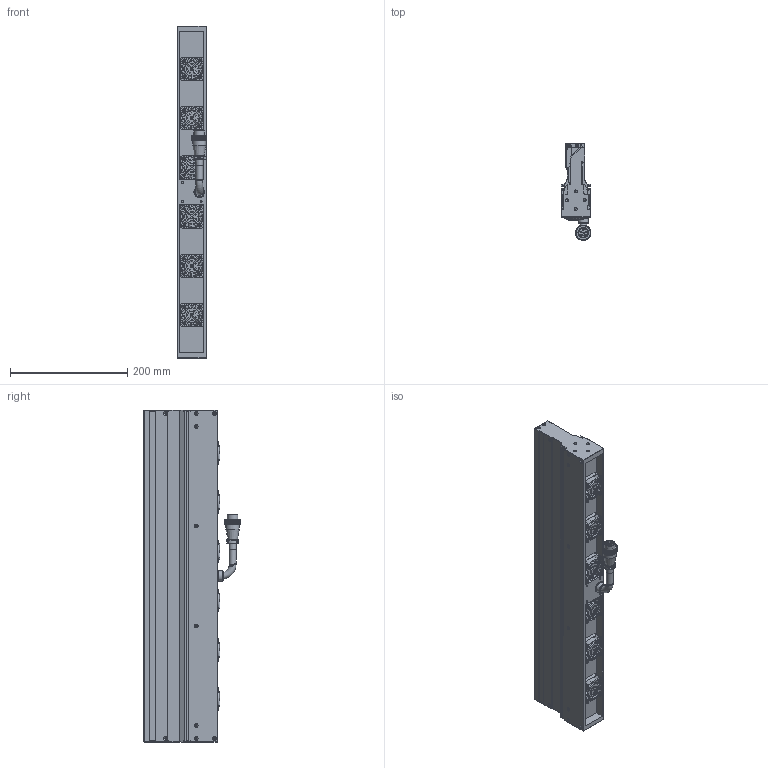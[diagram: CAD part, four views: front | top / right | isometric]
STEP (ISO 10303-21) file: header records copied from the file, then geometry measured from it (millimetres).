
FILE_DESCRIPTION (( 'STEP AP203' ), '1' );
FILE_NAME ('OPT-LSSC566-W-V3.1尨砩芞.STEP', '2025-02-05T08:49:35', ( 'USER' ), ( '' ), 'SwSTEP 2.0', 'SolidWorks 2016', '' );
FILE_SCHEMA (( 'CONFIG_CONTROL_DESIGN' ));
Length unit declared in the file: millimetre
Products named in the file (2): OPT-LSSC566-W-V3.1尨砩芞
Bounding box: 50.6 x 164.5 x 566 mm (x, y, z)
Volume: 2190106.3 mm3; surface area: 412078.4 mm2
Topology: 29 solids, 38 shells, 3151 faces, 8020 edges, 5083 vertices
Faces by surface type: bspline 1105, cylinder 942, plane 801, torus 234, cone 69
Full cylindrical faces by diameter (mm): 1 x2, 1.6 x24, 2 x6, 2.5 x28, 3 x4, 3.2 x28, 3.4 x26, 3.5 x4, 5 x8, 6.2 x24, 8 x1, 11.6 x1, 11.7 x3, 12 x1, 15 x1, 15.9 x1, 17.5 x1, 18 x1, 18.5 x1, 22.8 x1, 24 x1, 24.8 x6, 38 x6
Entity records: 116612 total; most frequent: CARTESIAN_POINT 53667, ORIENTED_EDGE 15060, DIRECTION 8743, EDGE_CURVE 7530, VERTEX_POINT 4972, B_SPLINE_CURVE_WITH_KNOTS 4361, EDGE_LOOP 3710, AXIS2_PLACEMENT_3D 3526
